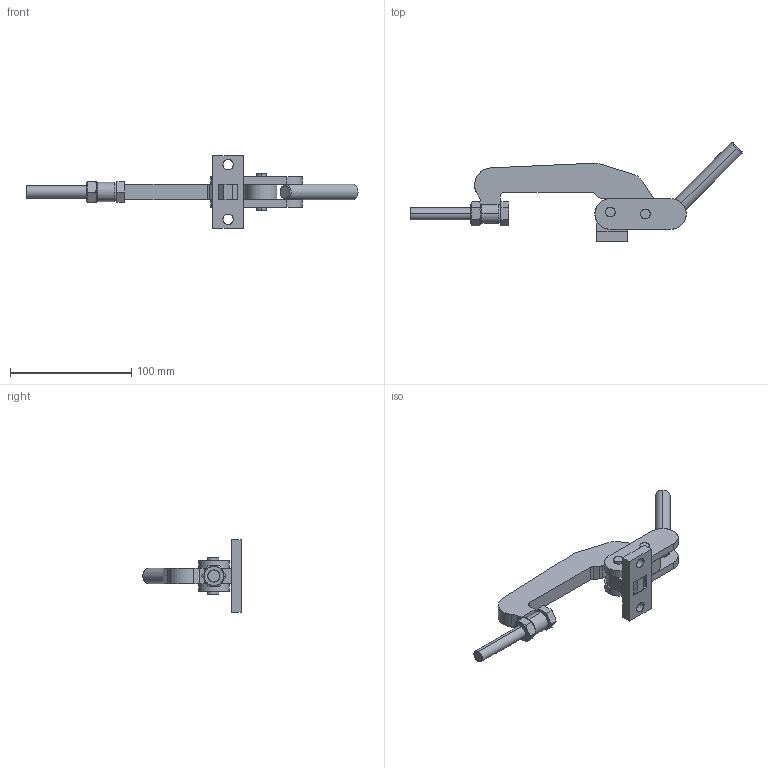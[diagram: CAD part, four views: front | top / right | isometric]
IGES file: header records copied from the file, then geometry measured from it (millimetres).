
Start section: SolidWorks IGES file using analytic representation for surfaces
Global section: file name: C:\Projetos\Grampos\KF-035 60\KF-035 60.IGS; native system: SolidWorks 2011; preprocessor: SolidWorks 2011; author: Usuario; date: 110629.102453; units: millimetre
Bounding box: 274.06 x 81.23 x 60 mm (x, y, z)
Surface area: 40742.7 mm2 (no closed solid volume)
Topology: 0 solids, 0 shells, 129 faces, 1984 edges, 1984 vertices
Faces by surface type: bspline 67, revolution 62
